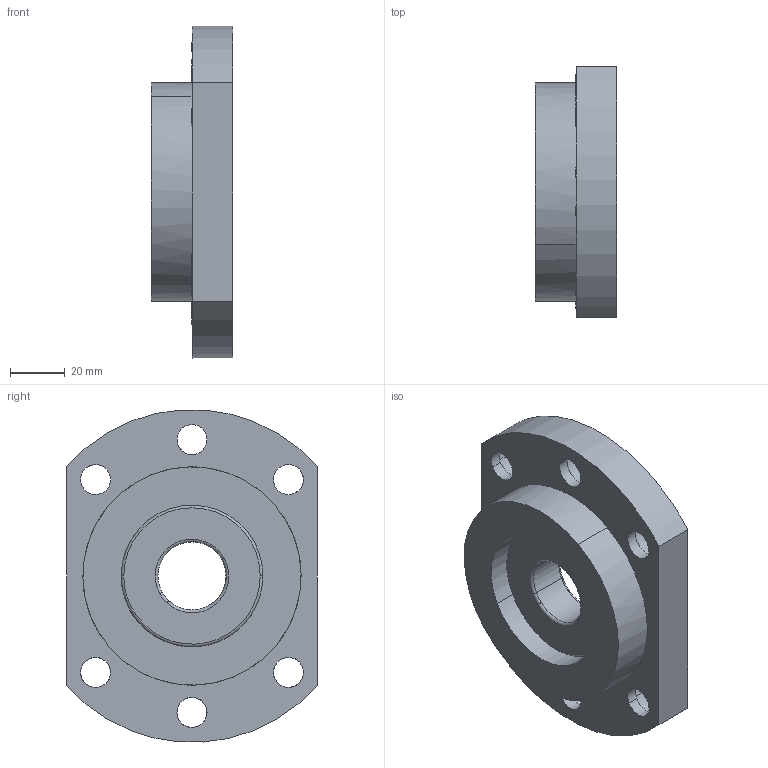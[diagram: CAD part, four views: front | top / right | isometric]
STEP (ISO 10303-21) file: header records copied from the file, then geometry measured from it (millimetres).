
FILE_DESCRIPTION(('CATIA V5 STEP Exchange'),'2;1');
FILE_NAME('D:\서포트 완성도면\FF\FF25.stp','2014-02-03T10:46:26+00:00',('none'),('none'),'CATIA Version 5 Release 18 GA (IN-10)','CATIA V5 STEP AP203','none');
FILE_SCHEMA(('CONFIG_CONTROL_DESIGN'));
Length unit declared in the file: millimetre
Products named in the file (1): FF25
Assembly tree (2 placements, depth 2):
  FF25
    #56
    #2020
Bounding box: 30 x 92 x 121.7 mm (x, y, z)
Volume: 168569.4 mm3; surface area: 40044.5 mm2
Topology: 2 solids, 2 shells, 59 faces, 136 edges, 88 vertices
Faces by surface type: cylinder 34, plane 13, torus 12
Entity records: 2634 total; most frequent: CARTESIAN_POINT 1306, ORIENTED_EDGE 272, DIRECTION 198, EDGE_CURVE 136, AXIS2_PLACEMENT_3D 100, VERTEX_POINT 88, EDGE_LOOP 82, ADVANCED_FACE 59
